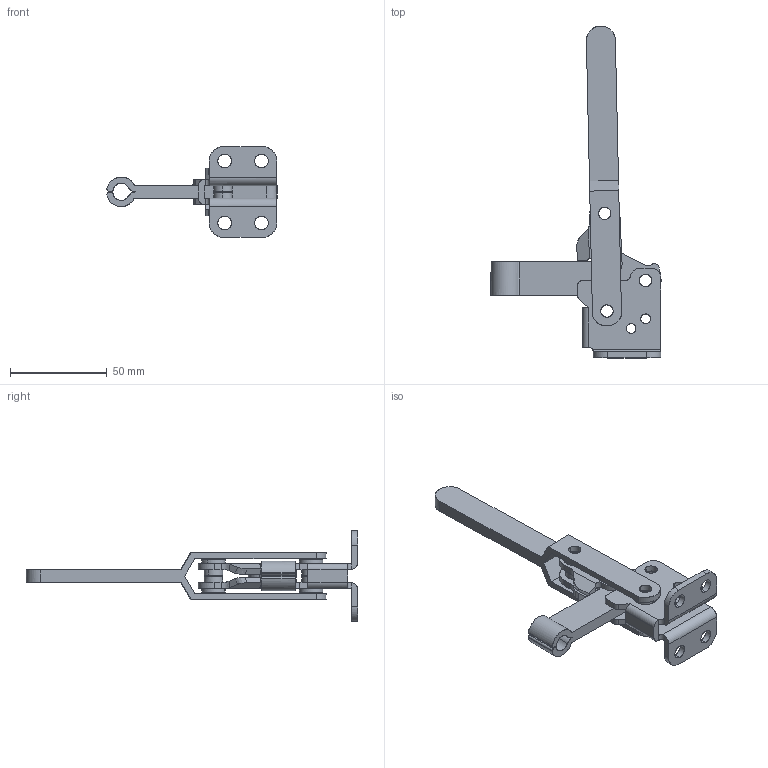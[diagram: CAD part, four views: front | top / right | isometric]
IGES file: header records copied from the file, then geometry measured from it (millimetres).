
Start section: Comment
Global section: file name: 12502c.igs; native system:  By Spatial Corp.; preprocessor: XPlus PS/IGES 3.0; author: Author; organization: Title; date: 20050216.171924; units: inch
Bounding box: 87.92 x 171.46 x 47 mm (x, y, z)
Surface area: 30643.4 mm2 (no closed solid volume)
Topology: 0 solids, 0 shells, 245 faces, 1274 edges, 1274 vertices
Faces by surface type: revolution 166, extrusion 79
